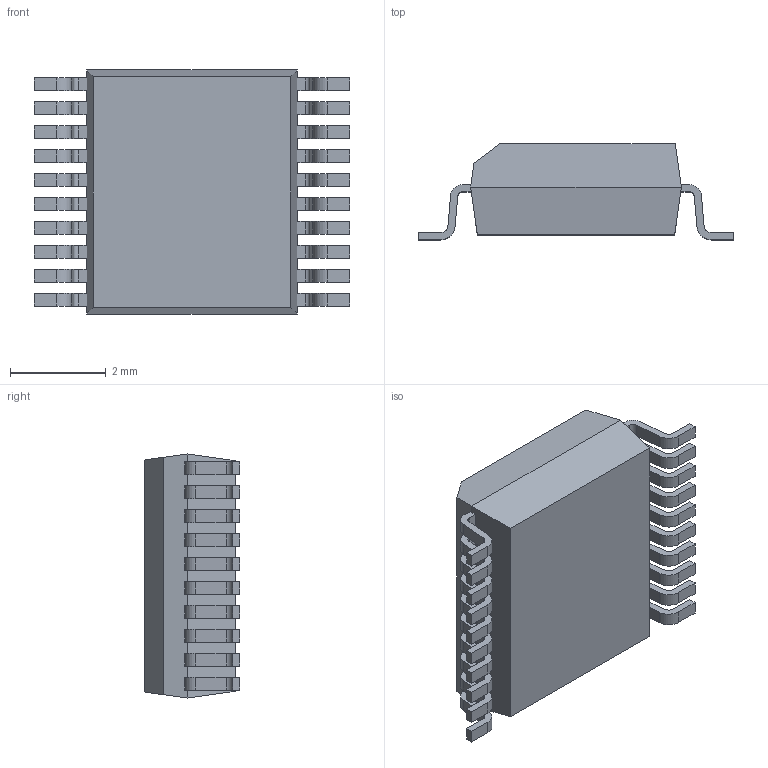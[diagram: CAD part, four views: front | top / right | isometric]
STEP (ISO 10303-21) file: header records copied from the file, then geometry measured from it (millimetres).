
FILE_DESCRIPTION (( 'STEP AP214' ), '1' );
FILE_NAME ('SSOP50P640X200-20_MO-152.BA.STEP', '2014-10-30T11:25:36', ( 'Tester2' ), ( '' ), 'SwSTEP 2.0', 'SolidWorks 2012', '' );
FILE_SCHEMA (( 'AUTOMOTIVE_DESIGN' ));
Length unit declared in the file: millimetre
Products named in the file (1): SSOP50P640X200-20_MO-152.BA
Bounding box: 6.6 x 2 x 5.1 mm (x, y, z)
Volume: 41.3 mm3; surface area: 105.9 mm2
Topology: 1 solids, 1 shells, 274 faces, 809 edges, 538 vertices
Faces by surface type: plane 192, cylinder 82
Entity records: 12032 total; most frequent: CARTESIAN_POINT 1622, ORIENTED_EDGE 1618, DIRECTION 1523, EDGE_CURVE 809, LINE 645, VECTOR 645, VERTEX_POINT 538, AXIS2_PLACEMENT_3D 439
